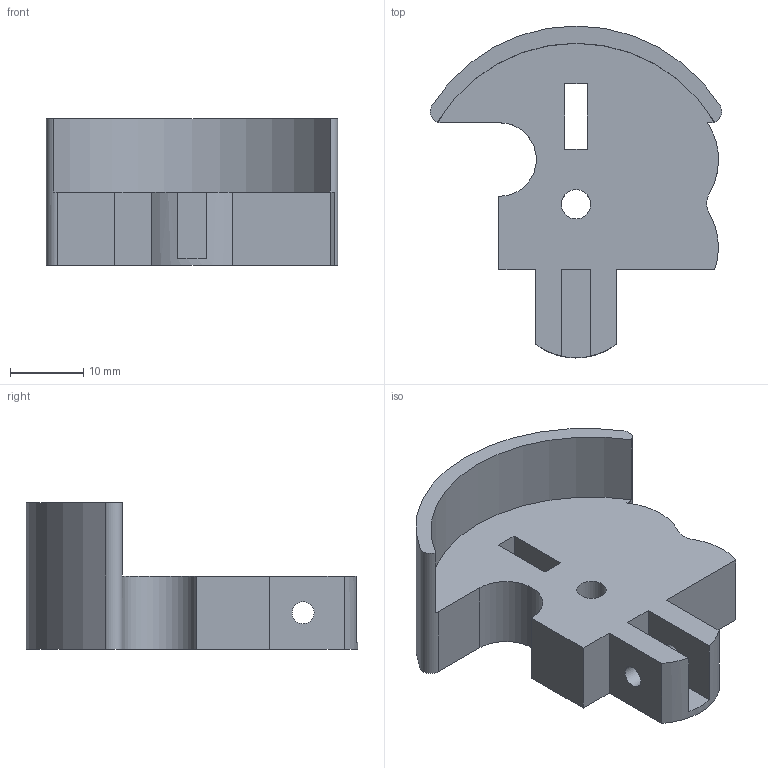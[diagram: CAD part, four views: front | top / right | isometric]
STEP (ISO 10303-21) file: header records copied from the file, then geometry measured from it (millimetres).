
FILE_DESCRIPTION((''),'2;1');
FILE_NAME('C:\MRFR\SHOCK\Hexen\STP\cover.stp','2013-08-15T20:10:27',('mrfr'),(''),'Autodesk Inventor 2013','Autodesk Inventor 2013','');
FILE_SCHEMA(('AUTOMOTIVE_DESIGN { 1 0 10303 214 1 1 1 1 }'));
Length unit declared in the file: millimetre
Products named in the file (1): cover
Bounding box: 39.67 x 45.15 x 20 mm (x, y, z)
Volume: 10766.3 mm3; surface area: 5223.4 mm2
Topology: 1 solids, 1 shells, 31 faces, 87 edges, 58 vertices
Faces by surface type: plane 19, cylinder 12
Full cylindrical faces by diameter (mm): 3 x2, 4 x1
Entity records: 1036 total; most frequent: DIRECTION 176, CARTESIAN_POINT 174, ORIENTED_EDGE 168, EDGE_CURVE 84, AXIS2_PLACEMENT_3D 60, VERTEX_POINT 58, VECTOR 56, LINE 56
